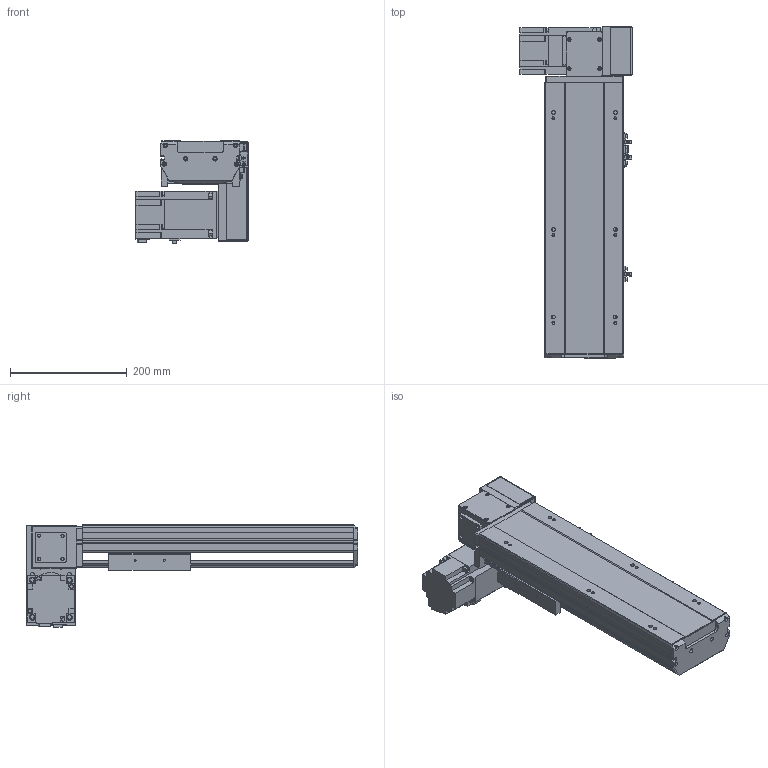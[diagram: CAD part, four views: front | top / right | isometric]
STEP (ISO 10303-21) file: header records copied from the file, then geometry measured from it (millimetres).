
FILE_DESCRIPTION (( 'STEP AP203' ), '1' );
FILE_NAME ('4.STEP', '2020-10-27T11:42:48', ( '' ), ( '' ), 'SwSTEP 2.0', 'SolidWorks 2016', '' );
FILE_SCHEMA (( 'CONFIG_CONTROL_DESIGN' ));
Length unit declared in the file: millimetre
Products named in the file (12): BTB14-RU-T75; BTB14-RU-24; FS-33-T75; 4; BTB14-RU-菁釱; BTB14-RU-01; BTB14-RU-23; BTB14-RU-HZ; FS-07-T75; BTB14-RU-06; FS-08-T75; BTB14-RU-04
Assembly tree (14 placements, depth 2):
  4
    BTB14-RU-菁釱
    BTB14-RU-01
    BTB14-RU-04  x3
    BTB14-RU-06
    BTB14-RU-23  x2
    BTB14-RU-24
    BTB14-RU-HZ
    FS-07-T75
    FS-08-T75
    FS-33-T75
    BTB14-RU-T75
Bounding box: 191.8 x 568 x 175.5 mm (x, y, z)
Volume: 3490015 mm3; surface area: 722889.5 mm2
Topology: 24 solids, 24 shells, 1738 faces, 4571 edges, 2944 vertices
Faces by surface type: plane 1033, cylinder 458, bspline 127, cone 108, torus 12
Entity records: 51312 total; most frequent: CARTESIAN_POINT 16159, ORIENTED_EDGE 7096, DIRECTION 6766, EDGE_CURVE 3548, LINE 2432, VECTOR 2432, VERTEX_POINT 2322, AXIS2_PLACEMENT_3D 2167
